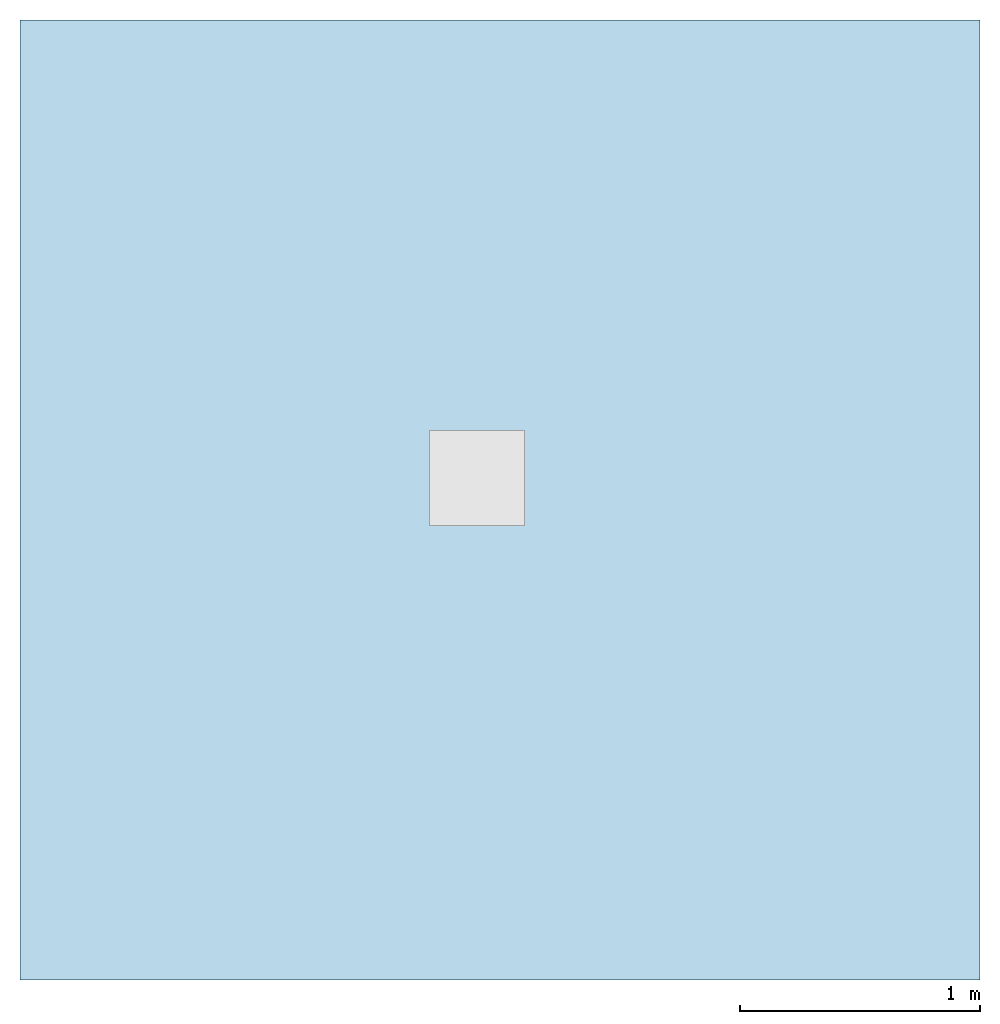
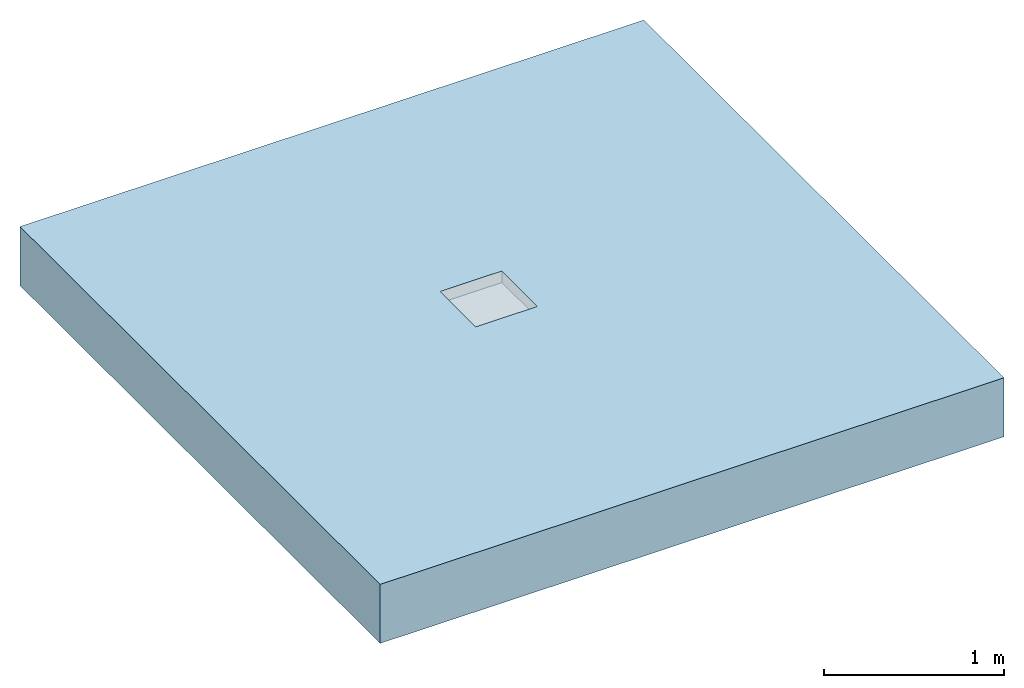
# One storey, incomplete: 1 slab, 3 openings.
"""IFC2X3 building model written with IfcOpenShell, lengths in millimetres."""

import ifcopenshell
import ifcopenshell.guid

model = None  # the IFC model being written
_history = None  # IfcOwnerHistory: only IFC2X3 demands one
_inside = {}  # id of a spatial element -> (the spatial element, [elements in it])
_under = {}  # id of a project, library or spatial element -> (it, [spatial elements below it])
_declared = {}  # id of a project -> (the project, [libraries it declares])
_typed = {}  # id of a type object -> (the type object, [elements of that type])
_made_of = {}  # id of a material, layer set ... -> (it, [elements and type objects made of it])


def new_model(schema):
    """Start an empty IFC model of exactly this schema.

    Asked for "IFC4X3", IfcOpenShell would pick the latest addendum, in which some entities
    have other attributes; the version numbers below select the first issue.
    IFC2X3 requires an IfcOwnerHistory on every rooted entity: one is made here for all.
    """
    global model, _history
    if schema == "IFC4X3":
        model = ifcopenshell.file(schema_version=(4, 3, 0, 0))
    else:
        model = ifcopenshell.file(schema=schema)
    _inside.clear()
    _under.clear()
    _declared.clear()
    _typed.clear()
    _made_of.clear()
    _history = None
    if model.schema == "IFC2X3":
        org = make("IfcOrganization", Name="unknown")
        user = make(
            "IfcPersonAndOrganization",
            ThePerson=make("IfcPerson", FamilyName="unknown"),
            TheOrganization=org,
        )
        app = make(
            "IfcApplication",
            ApplicationDeveloper=org,
            Version="unknown",
            ApplicationFullName="unknown",
            ApplicationIdentifier="unknown",
        )
        _history = make(
            "IfcOwnerHistory",
            OwningUser=user,
            OwningApplication=app,
            ChangeAction="ADDED",
            CreationDate=0,
        )
    return model


def make(cls, **values):
    """One entity of the class cls with the attributes given. An attribute that is None is left unset."""
    return model.create_entity(
        cls, **{name: value for name, value in values.items() if value is not None}
    )


def entity(cls, *values):
    """Any entity or typed value of the class cls, its attributes in the order of the schema. None: left unset."""
    e = model.create_entity(cls)
    for i, value in enumerate(values):
        if value is not None:
            e[i] = value
    return e


def rooted(cls, **values):
    """An entity with a GlobalId (a new one), such as an element, a storey or a relation."""
    return make(cls, GlobalId=ifcopenshell.guid.new(), OwnerHistory=_history, **values)


def si_unit(unit_type, name, prefix=None):
    """IfcSIUnit, for example si_unit("LENGTHUNIT", "METRE", prefix="MILLI")."""
    return make("IfcSIUnit", UnitType=unit_type, Prefix=prefix, Name=name)


def converted_unit(unit_type, name, factor, base, dimensions=None, offset=None):
    """IfcConversionBasedUnit, such as the inch: factor (a typed value) times the base unit."""
    return make(
        "IfcConversionBasedUnit"
        if offset is None
        else "IfcConversionBasedUnitWithOffset",
        ConversionOffset=offset,
        Dimensions=None
        if dimensions is None
        else entity("IfcDimensionalExponents", *dimensions),
        UnitType=unit_type,
        Name=name,
        ConversionFactor=make(
            "IfcMeasureWithUnit", ValueComponent=factor, UnitComponent=base
        ),
    )


def derived_unit(unit_type, elements):
    """IfcDerivedUnit: a product of units, each with its exponent."""
    return make(
        "IfcDerivedUnit",
        Elements=[
            make("IfcDerivedUnitElement", Unit=unit, Exponent=power)
            for unit, power in elements
        ],
        UnitType=unit_type,
    )


def assignment(units):
    """IfcUnitAssignment: the units of a project."""
    return None if units is None else make("IfcUnitAssignment", Units=units)


def point(xyz):
    """IfcCartesianPoint."""
    return None if xyz is None else make("IfcCartesianPoint", Coordinates=xyz)


def direction(xyz):
    """IfcDirection."""
    return None if xyz is None else make("IfcDirection", DirectionRatios=xyz)


def frame(location, z_axis=None, x_axis=None):
    """IfcAxis2Placement3D, a coordinate frame: its origin and axes. An axis left out is left unset."""
    return make(
        "IfcAxis2Placement3D",
        Location=point(location),
        Axis=direction(z_axis),
        RefDirection=direction(x_axis),
    )


def frame_2d(location, x_axis=None):
    """IfcAxis2Placement2D, a coordinate frame in the plane: its origin and x axis."""
    return make(
        "IfcAxis2Placement2D", Location=point(location), RefDirection=direction(x_axis)
    )


def origin():
    """The frame at (0, 0, 0) with its axes left unset."""
    return frame((0.0, 0.0, 0.0))


def origin_2d_with_axis():
    """The frame at (0, 0) in the plane with the x axis (1, 0) written out."""
    return frame_2d((0.0, 0.0), x_axis=(1.0, 0.0))


def place(relative_to, where):
    """IfcLocalPlacement: puts the frame where relative to a parent placement (None: the world)."""
    return make(
        "IfcLocalPlacement", PlacementRelTo=relative_to, RelativePlacement=where
    )


def context(
    kind, dimensions, precision=None, world=None, true_north=None, identifier=None
):
    """IfcGeometricRepresentationContext, for example the 3D "Model" context."""
    return make(
        "IfcGeometricRepresentationContext",
        ContextIdentifier=identifier,
        ContextType=kind,
        CoordinateSpaceDimension=dimensions,
        Precision=precision,
        WorldCoordinateSystem=world,
        TrueNorth=true_north,
    )


def subcontext(parent, identifier, kind, view, scale=None):
    """IfcGeometricRepresentationSubContext, for example "Body" below "Model"."""
    return make(
        "IfcGeometricRepresentationSubContext",
        ContextIdentifier=identifier,
        ContextType=kind,
        ParentContext=parent,
        TargetScale=scale,
        TargetView=view,
    )


def project(units=None, contexts=None):
    """IfcProject with its units and contexts."""
    return rooted(
        "IfcProject",
        Name="project",
        RepresentationContexts=contexts,
        UnitsInContext=assignment(units),
    )


def spatial(cls, under=None, at=None, **own):
    """A site, building, storey or space (cls), placed at a placement, below another one or the project."""
    s = rooted(cls, ObjectPlacement=at, **own)
    if under is not None:
        _under.setdefault(under.id(), (under, []))[1].append(s)
    return s


def profile(cls, at=None, kind="AREA", **sizes):
    """A parametric profile (cls). Its sizes go by their IFC names, for example OverallWidth=200.0."""
    return make(cls, ProfileType=kind, Position=at, **sizes)


def rectangle(**sizes):
    """IfcRectangleProfileDef."""
    return profile("IfcRectangleProfileDef", **sizes)


def extrude(swept, where, along, depth):
    """IfcExtrudedAreaSolid: the profile swept, set in the frame where, extruded along a direction by depth."""
    return make(
        "IfcExtrudedAreaSolid",
        SweptArea=swept,
        Position=where,
        ExtrudedDirection=direction(along),
        Depth=depth,
    )


def faces_of(points, faces, orient=None, outer=None):
    """IfcFace entities. A face is a list of loops; a loop is a list of indices into points, from 0.

    orient and outer hold one flag for each loop. By default every Orientation is true, the
    first loop of a face is its IfcFaceOuterBound and the others are IfcFaceBound.
    """
    made = []
    for i, loops in enumerate(faces):
        bounds = []
        for j, loop in enumerate(loops):
            is_outer = j == 0 if outer is None else outer[i][j]
            bounds.append(
                make(
                    "IfcFaceOuterBound" if is_outer else "IfcFaceBound",
                    Bound=make("IfcPolyLoop", Polygon=[points[k] for k in loop]),
                    Orientation=True if orient is None else orient[i][j],
                )
            )
        made.append(make("IfcFace", Bounds=bounds))
    return made


def faceted_brep(points, faces, orient=None, outer=None, voids=None):
    """IfcFacetedBrep: a solid bounded by flat faces; with voids (closed shells), ...WithVoids."""
    shared = [point(p) for p in points]
    hull = make("IfcClosedShell", CfsFaces=faces_of(shared, faces, orient, outer))
    if voids is None:
        return make("IfcFacetedBrep", Outer=hull)
    return make(
        "IfcFacetedBrepWithVoids",
        Outer=hull,
        Voids=[
            make(cls, CfsFaces=faces_of(shared, fs, o, b)) for cls, fs, o, b in voids
        ],
    )


def shape(context_of_items, identifier, shape_type, items):
    """IfcShapeRepresentation: the items that make up one representation, for example the "Body"."""
    return make(
        "IfcShapeRepresentation",
        ContextOfItems=context_of_items,
        RepresentationIdentifier=identifier,
        RepresentationType=shape_type,
        Items=items,
    )


def material(Name=None, Category=None):
    """IfcMaterial."""
    return make("IfcMaterial", Name=Name, Category=Category)


def layer(
    of_material, thickness, ventilated=None, Name=None, Category=None, Priority=None
):
    """IfcMaterialLayer: one layer of a wall or slab, of a material (None: an air gap)."""
    return make(
        "IfcMaterialLayer",
        Material=of_material,
        LayerThickness=thickness,
        IsVentilated=ventilated,
        Name=Name,
        Category=Category,
        Priority=Priority,
    )


def layer_set(layers, Name=None):
    """IfcMaterialLayerSet."""
    return make("IfcMaterialLayerSet", MaterialLayers=layers, LayerSetName=Name)


def layer_usage(for_layer_set, set_direction, sense, offset, extent=None):
    """IfcMaterialLayerSetUsage: how a layer set lies in its element."""
    return make(
        "IfcMaterialLayerSetUsage",
        ForLayerSet=for_layer_set,
        LayerSetDirection=set_direction,
        DirectionSense=sense,
        OffsetFromReferenceLine=offset,
        ReferenceExtent=extent,
    )


def made_of(thing, what):
    """Note that an element or type object is made of a material, layer set ...; save() writes the relation."""
    if what is not None:
        _made_of.setdefault(what.id(), (what, []))[1].append(thing)
    return thing


def element(
    cls,
    number,
    at=None,
    inside=None,
    cuts=None,
    type_object=None,
    material=None,
    context=None,
    identifier="Body",
    shape_type=None,
    held_by="IfcProductDefinitionShape",
    body=None,
    shapes=None,
    **own,
):
    """One element of the class cls, such as IfcWall. Its Tag is "e" and its number.

    at: its placement. inside: the storey or other place that contains it. cuts: it is an
    opening in that element (IfcRelVoidsElement). A single representation is given by context,
    identifier, shape_type and body (its items); several are given by shapes. held_by: the class
    of the entity that holds the representations. save() writes the other relations.
    """
    e = rooted(cls, Tag="e%d" % number, ObjectPlacement=at, **own)
    if body is not None:
        shapes = [shape(context, identifier, shape_type, body)]
    if shapes is not None:
        e.Representation = make(held_by, Representations=shapes)
    if inside is not None:
        _inside.setdefault(inside.id(), (inside, []))[1].append(e)
    if cuts is not None:
        rooted(
            "IfcRelVoidsElement", RelatingBuildingElement=cuts, RelatedOpeningElement=e
        )
    if type_object is not None:
        _typed.setdefault(type_object.id(), (type_object, []))[1].append(e)
    return made_of(e, material)


def aggregate(whole, parts):
    """IfcRelAggregates: a whole, such as a stair, and the parts it consists of."""
    return rooted("IfcRelAggregates", RelatingObject=whole, RelatedObjects=parts)


def save(model, path):
    """Write the relations noted so far, then the file.

    IfcRelAggregates (storeys below a building ...), IfcRelContainedInSpatialStructure (elements
    in a storey), IfcRelDefinesByType, IfcRelAssociatesMaterial and IfcRelDeclares: one each for
    every whole, place, type object, material and project.
    """
    for whole, parts in _under.values():
        aggregate(whole, parts)
    for where, things in _inside.values():
        rooted(
            "IfcRelContainedInSpatialStructure",
            RelatedElements=things,
            RelatingStructure=where,
        )
    for kind, things in _typed.values():
        rooted("IfcRelDefinesByType", RelatedObjects=things, RelatingType=kind)
    for what, things in _made_of.values():
        rooted("IfcRelAssociatesMaterial", RelatedObjects=things, RelatingMaterial=what)
    for by, libraries in _declared.values():
        rooted("IfcRelDeclares", RelatingContext=by, RelatedDefinitions=libraries)
    model.write(path)


model = new_model("IFC2X3")

# Units and contexts
model_context = context("Model", 3, precision=1e-05, world=origin(), true_north=direction((2.0, 6.12303176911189e-17, 1.0)))
context_of_model = context(None, 3, precision=1e-05, world=origin(), true_north=direction((2.0, 6.12303176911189e-17, 1.0)))
body_context = subcontext(model_context, "Body", "Model", "MODEL_VIEW")
ifc_project = project(units=[si_unit("LENGTHUNIT", "METRE", prefix="MILLI"), si_unit("AREAUNIT", "SQUARE_METRE"), si_unit("VOLUMEUNIT", "CUBIC_METRE"), converted_unit("PLANEANGLEUNIT", "DEGREE", entity("IfcRatioMeasure", 0.0174532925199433), si_unit("PLANEANGLEUNIT", "RADIAN"), dimensions=[0, 0, 0, 0, 0, 0, 0]), si_unit("MASSUNIT", "GRAM", prefix="KILO"), si_unit("TIMEUNIT", "SECOND"), si_unit("THERMODYNAMICTEMPERATUREUNIT", "KELVIN"), derived_unit("THERMALTRANSMITTANCEUNIT", [(si_unit("MASSUNIT", "GRAM", prefix="KILO"), 1), (si_unit("THERMODYNAMICTEMPERATUREUNIT", "KELVIN"), -1), (si_unit("TIMEUNIT", "SECOND"), -3)]), derived_unit("VOLUMETRICFLOWRATEUNIT", [(si_unit("LENGTHUNIT", "METRE"), 3), (si_unit("TIMEUNIT", "SECOND"), -1)]), si_unit("POWERUNIT", "WATT")], contexts=[model_context, context_of_model])

# Site, building, storey
site_placement = place(None, origin())
site = spatial("IfcSite", under=ifc_project, at=site_placement, Name="Default", CompositionType="ELEMENT")
building_placement = place(site_placement, origin())
building = spatial("IfcBuilding", under=site, at=building_placement, CompositionType="ELEMENT")
storey_placement = place(building_placement, origin())
storey = spatial("IfcBuildingStorey", under=building, at=storey_placement, Name="Level 1", CompositionType="ELEMENT", Elevation=0.0)

# Slab, openings
ifc_material = material(Name="Concrete, Broom Finish")
ifc_layer = layer(ifc_material, 400.0)
ifc_layer_set = layer_set([ifc_layer], Name="Floor:Generic Floor - 400mm")
ifc_layer_usage = layer_usage(ifc_layer_set, "AXIS3", "POSITIVE", 0.0)
slab_placement = place(storey_placement, origin())
slab = element("IfcSlab", 1, at=slab_placement, inside=storey, material=ifc_layer_usage, Name="Floor:Generic Floor - 400mm", ObjectType="Floor:Generic Floor - 400mm", PredefinedType="FLOOR", context=body_context, shape_type="SweptSolid", body=[
    extrude(rectangle(XDim=4000.0, YDim=4000.0, at=frame_2d((0.0, 0.0), x_axis=(0.0, -1.0))), frame((-42.176138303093, 2.05004766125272, 0.0), z_axis=(0.0, 0.0, -1.0), x_axis=(-1.0, 0.0, 0.0)), (0.0, 0.0, 1.0), 400.0),
])
opening_1_placement = place(slab_placement, origin())
element("IfcOpeningElement", 2, at=opening_1_placement, cuts=slab, ObjectType="Opening", context=body_context, shape_type="SweptSolid", body=[
    extrude(rectangle(XDim=399.999999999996, YDim=399.999999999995, at=origin_2d_with_axis()), frame((-138.311063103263, 93.7378368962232, -3084.0), z_axis=(0.0, 0.0, 1.0), x_axis=(-1.0, 0.0, 0.0)), (0.0, 0.0, 1.0), 74.9999999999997),
])
opening_2_placement = place(slab_placement, origin())
element("IfcOpeningElement", 3, at=opening_2_placement, cuts=slab, ObjectType="Opening", context=body_context, shape_type="SweptSolid", body=[
    extrude(rectangle(XDim=99.9999999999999, YDim=100.0, at=origin_2d_with_axis()), frame((-138.311063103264, 143.737836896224, -5000.0)), (0.0, 0.0, 1.0), 30.0000000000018),
])
opening_3_placement = place(slab_placement, origin())
element("IfcOpeningElement", 4, at=opening_3_placement, cuts=slab, ObjectType="Opening", context=body_context, shape_type="Brep", body=[
    faceted_brep([(-335.801063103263, -103.752163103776, 0.0), (59.1789368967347, -103.752163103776, 0.0), (59.1789368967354, 291.227836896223, 0.0), (-335.801063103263, 291.227836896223, 0.0), (59.1789368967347, -103.752163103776, -30.0), (59.1789368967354, 291.227836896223, -30.0), (-335.801063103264, -103.752163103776, -30.0), (-335.801063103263, 291.227836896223, -30.0), (61.6889368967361, -106.262163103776, -30.0), (-338.311063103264, -106.262163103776, -30.0), (61.6889368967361, 293.737836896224, -30.0), (-338.311063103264, 293.737836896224, -30.0), (-338.311063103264, 293.737836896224, -80.0), (61.6889368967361, 293.737836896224, -80.0), (61.6889368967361, -106.262163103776, -80.0), (-338.311063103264, -106.262163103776, -80.0)], [[[0, 1, 2]], [[2, 3, 0]], [[4, 5, 2]], [[2, 1, 4]], [[6, 4, 0]], [[1, 0, 4]], [[7, 6, 0]], [[0, 3, 7]], [[5, 7, 3]], [[3, 2, 5]], [[8, 4, 6]], [[4, 8, 5]], [[9, 6, 7]], [[6, 9, 8]], [[5, 10, 7]], [[10, 5, 8]], [[7, 11, 9]], [[11, 7, 10]], [[12, 13, 14]], [[14, 15, 12]], [[10, 8, 14]], [[14, 13, 10]], [[11, 10, 13]], [[13, 12, 11]], [[9, 11, 12]], [[12, 15, 9]], [[8, 9, 15]], [[15, 14, 8]]]),
])

save(model, "model.ifc")
